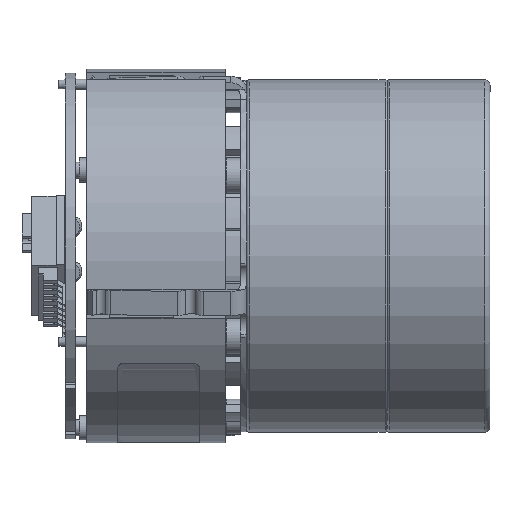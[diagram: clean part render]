
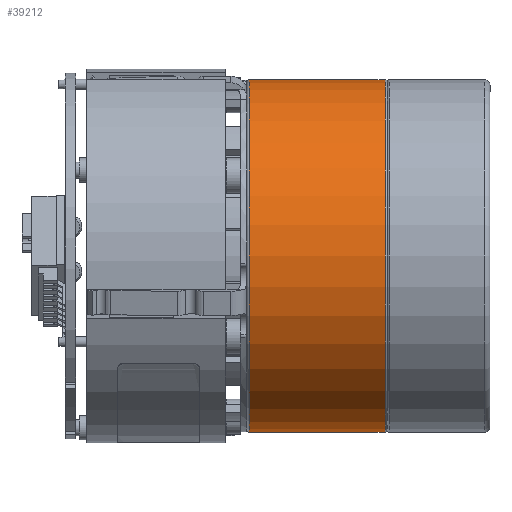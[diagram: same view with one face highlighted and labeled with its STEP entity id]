
A CAD part, front view. The second image highlights one B-rep face of the part: STEP entity #39212.
In plain terms, the highlighted cylindrical face has radius 27.4 mm (diameter 54.8 mm), a full revolution.
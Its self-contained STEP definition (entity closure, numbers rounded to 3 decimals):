
#355 = DIRECTION ( 'NONE',  ( 1., 0., 0. ) ) ;
#948 = DIRECTION ( 'NONE',  ( 0., 0., -1. ) ) ;
#1170 = AXIS2_PLACEMENT_3D ( 'NONE', #25176, #355, #948 ) ;
#2395 = DIRECTION ( 'NONE',  ( -1., 0., 0. ) ) ;
#3489 = DIRECTION ( 'NONE',  ( 0., 0., 1. ) ) ;
#4785 = AXIS2_PLACEMENT_3D ( 'NONE', #34774, #6969, #3489 ) ;
#5760 = EDGE_CURVE ( 'NONE', #28204, #28204, #14642, .T. ) ;
#6969 = DIRECTION ( 'NONE',  ( 1., 0., 0. ) ) ;
#8260 = ORIENTED_EDGE ( 'NONE', *, *, #35530, .T. ) ;
#10008 = CYLINDRICAL_SURFACE ( 'NONE', #1170, 27.4 ) ;
#14642 = CIRCLE ( 'NONE', #4785, 27.4 ) ;
#16871 = CARTESIAN_POINT ( 'NONE',  ( 26.175, 0., -27.4 ) ) ;
#17588 = DIRECTION ( 'NONE',  ( 0., 0., -1. ) ) ;
#21717 = ORIENTED_EDGE ( 'NONE', *, *, #5760, .T. ) ;
#22042 = CARTESIAN_POINT ( 'NONE',  ( 5.05, 0., 27.4 ) ) ;
#22711 = EDGE_LOOP ( 'NONE', ( #21717 ) ) ;
#24137 = CARTESIAN_POINT ( 'NONE',  ( 26.175, 0., 0. ) ) ;
#25176 = CARTESIAN_POINT ( 'NONE',  ( 0., 0., 0. ) ) ;
#25918 = AXIS2_PLACEMENT_3D ( 'NONE', #24137, #2395, #17588 ) ;
#26710 = VERTEX_POINT ( 'NONE', #16871 ) ;
#27222 = CIRCLE ( 'NONE', #25918, 27.4 ) ;
#28204 = VERTEX_POINT ( 'NONE', #22042 ) ;
#34255 = EDGE_LOOP ( 'NONE', ( #8260 ) ) ;
#34511 = FACE_OUTER_BOUND ( 'NONE', #22711, .T. ) ;
#34774 = CARTESIAN_POINT ( 'NONE',  ( 5.05, 0., 0. ) ) ;
#35530 = EDGE_CURVE ( 'NONE', #26710, #26710, #27222, .T. ) ;
#37999 = FACE_OUTER_BOUND ( 'NONE', #34255, .T. ) ;
#39212 = ADVANCED_FACE ( 'NONE', ( #34511, #37999 ), #10008, .T. ) ;
